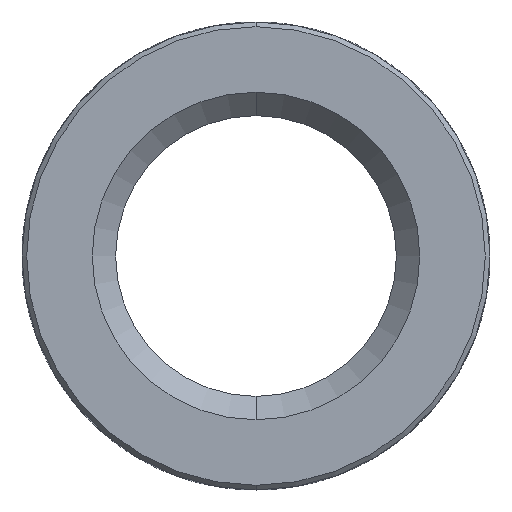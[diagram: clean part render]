
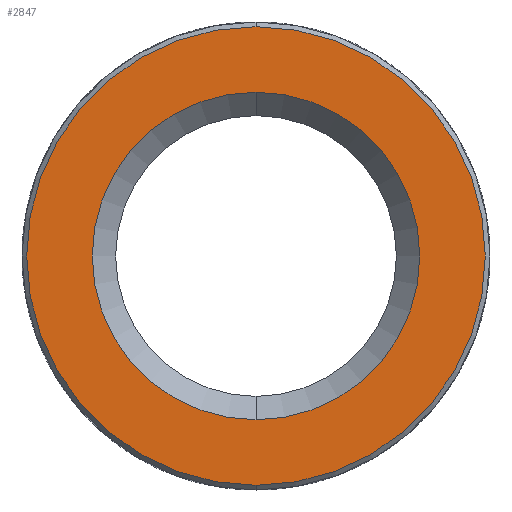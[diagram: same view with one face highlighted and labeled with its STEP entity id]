
A CAD part, front view. The second image highlights one B-rep face of the part: STEP entity #2847.
In plain terms, the highlighted planar face has unit normal (0, -1, 0).
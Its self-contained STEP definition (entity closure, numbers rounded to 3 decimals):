
#90 = CARTESIAN_POINT ( 'NONE',  ( 0., -6.6, 0. ) ) ;
#215 = VERTEX_POINT ( 'NONE', #3331 ) ;
#220 = DIRECTION ( 'NONE',  ( 0., -1., 0. ) ) ;
#319 = AXIS2_PLACEMENT_3D ( 'NONE', #2241, #3676, #1388 ) ;
#435 = AXIS2_PLACEMENT_3D ( 'NONE', #483, #3365, #3379 ) ;
#483 = CARTESIAN_POINT ( 'NONE',  ( 0., -6.6, 0. ) ) ;
#507 = CIRCLE ( 'NONE', #1269, 3.5 ) ;
#535 = CARTESIAN_POINT ( 'NONE',  ( 0., -6.6, 0. ) ) ;
#536 = ORIENTED_EDGE ( 'NONE', *, *, #3009, .T. ) ;
#658 = CARTESIAN_POINT ( 'NONE',  ( 0., -6.6, 4.9 ) ) ;
#673 = DIRECTION ( 'NONE',  ( 0., 0., -1. ) ) ;
#867 = CIRCLE ( 'NONE', #1239, 4.9 ) ;
#986 = VERTEX_POINT ( 'NONE', #2575 ) ;
#1047 = PLANE ( 'NONE',  #2836 ) ;
#1239 = AXIS2_PLACEMENT_3D ( 'NONE', #90, #1576, #673 ) ;
#1259 = ORIENTED_EDGE ( 'NONE', *, *, #2913, .T. ) ;
#1269 = AXIS2_PLACEMENT_3D ( 'NONE', #535, #3477, #3766 ) ;
#1388 = DIRECTION ( 'NONE',  ( 0., 0., -1. ) ) ;
#1576 = DIRECTION ( 'NONE',  ( 0., -1., 0. ) ) ;
#1676 = DIRECTION ( 'NONE',  ( 0., 0., -1. ) ) ;
#1729 = FACE_BOUND ( 'NONE', #3420, .T. ) ;
#1854 = CARTESIAN_POINT ( 'NONE',  ( 0., -6.6, 5. ) ) ;
#2174 = FACE_OUTER_BOUND ( 'NONE', #2611, .T. ) ;
#2213 = ORIENTED_EDGE ( 'NONE', *, *, #2865, .T. ) ;
#2241 = CARTESIAN_POINT ( 'NONE',  ( 0., -6.6, 0. ) ) ;
#2327 = VERTEX_POINT ( 'NONE', #2484 ) ;
#2442 = CIRCLE ( 'NONE', #435, 3.5 ) ;
#2484 = CARTESIAN_POINT ( 'NONE',  ( 0., -6.6, -3.5 ) ) ;
#2544 = CIRCLE ( 'NONE', #319, 4.9 ) ;
#2575 = CARTESIAN_POINT ( 'NONE',  ( 0., -6.6, 3.5 ) ) ;
#2611 = EDGE_LOOP ( 'NONE', ( #536, #1259 ) ) ;
#2836 = AXIS2_PLACEMENT_3D ( 'NONE', #1854, #220, #1676 ) ;
#2847 = ADVANCED_FACE ( 'NONE', ( #2174, #1729 ), #1047, .T. ) ;
#2865 = EDGE_CURVE ( 'NONE', #986, #2327, #2442, .T. ) ;
#2913 = EDGE_CURVE ( 'NONE', #215, #3330, #2544, .T. ) ;
#3009 = EDGE_CURVE ( 'NONE', #3330, #215, #867, .T. ) ;
#3330 = VERTEX_POINT ( 'NONE', #658 ) ;
#3331 = CARTESIAN_POINT ( 'NONE',  ( 0., -6.6, -4.9 ) ) ;
#3365 = DIRECTION ( 'NONE',  ( 0., 1., 0. ) ) ;
#3379 = DIRECTION ( 'NONE',  ( 0., 0., -1. ) ) ;
#3387 = EDGE_CURVE ( 'NONE', #2327, #986, #507, .T. ) ;
#3420 = EDGE_LOOP ( 'NONE', ( #3754, #2213 ) ) ;
#3477 = DIRECTION ( 'NONE',  ( 0., 1., 0. ) ) ;
#3676 = DIRECTION ( 'NONE',  ( 0., -1., 0. ) ) ;
#3754 = ORIENTED_EDGE ( 'NONE', *, *, #3387, .T. ) ;
#3766 = DIRECTION ( 'NONE',  ( 0., 0., -1. ) ) ;
